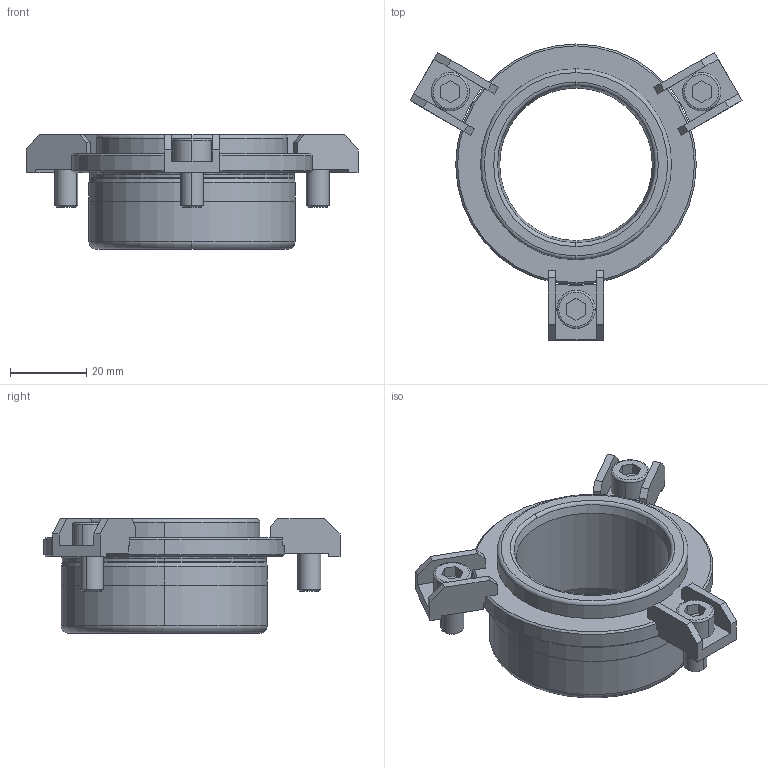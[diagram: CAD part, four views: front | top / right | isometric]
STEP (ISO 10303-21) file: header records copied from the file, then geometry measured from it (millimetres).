
FILE_DESCRIPTION((''),'2;1');
FILE_NAME('B42_032_020.stp','2008-11-04T14:30:19',(''),(''),'Mechanical Desktop 2009','Mechanical Desktop 2009',', , ');
FILE_SCHEMA(('CONFIG_CONTROL_DESIGN'));
Length unit declared in the file: millimetre
Products named in the file (2): Product; blmdl1
Assembly tree (1 placements, depth 2):
  Product
    blmdl1
Bounding box: 86.92 x 77.5 x 30 mm (x, y, z)
Volume: 37624.6 mm3; surface area: 17168.2 mm2
Topology: 7 solids, 7 shells, 185 faces, 474 edges, 312 vertices
Faces by surface type: plane 104, cylinder 39, cone 18, torus 14, bspline 10
Entity records: 6165 total; most frequent: CARTESIAN_POINT 1413, DIRECTION 1008, ORIENTED_EDGE 948, EDGE_CURVE 474, AXIS2_PLACEMENT_3D 357, VERTEX_POINT 312, VECTOR 294, LINE 294
